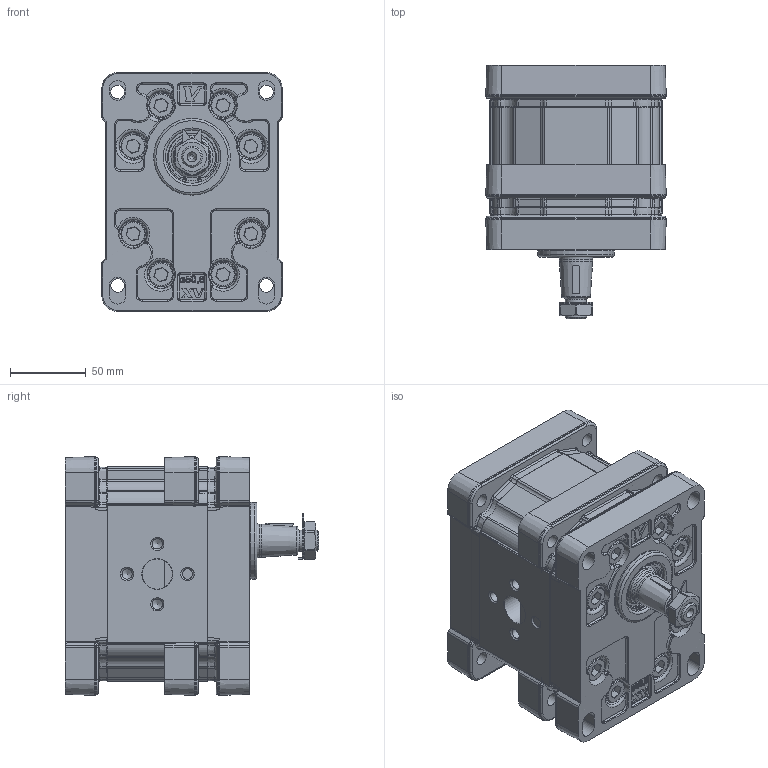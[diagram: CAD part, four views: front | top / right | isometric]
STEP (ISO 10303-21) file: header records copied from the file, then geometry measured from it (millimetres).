
FILE_DESCRIPTION( ( 'Unknown' ), '1' );
FILE_NAME( 'P:/montaggio_easy/output/STP/X3T6602AAAA.stp', 'Unknown', ( 'Unknown' ), ( 'Unknown' ), 'PSStep 14.0', 'Unknown', ' ' );
FILE_SCHEMA( ( 'AUTOMOTIVE_DESIGN { 1 0 10303 214 1 1 1 1 }' ) );
Length unit declared in the file: millimetre
Products named in the file (5): Assem1; X3T02; 3A; X3AAH66; XT301-A
Bounding box: 119.47 x 168.03 x 158.07 mm (x, y, z)
Surface area: 434372.9 mm2
Topology: 8 solids, 26 shells, 3762 faces, 9188 edges, 5650 vertices
Faces by surface type: plane 1302, cylinder 948, bspline 600, torus 386, cone 346, extrusion 100, sphere 80
Full cylindrical faces by diameter (mm): 2 x4, 6.8 x24, 9 x8, 10 x16, 14 x4, 15.8 x16, 16 x32, 17 x4, 20 x4, 20.5 x2, 22 x2, 24.98 x2, 25 x4, 25.968 x2, 28.16 x2, 31.293 x2, 32.742 x2, 34.956 x2, 35 x4, 35.2 x2, 37 x2, 46.8 x2, 50.8 x4
Entity records: 89037 total; most frequent: CARTESIAN_POINT 33871, ORIENTED_EDGE 8638, DIRECTION 7546, EDGE_CURVE 4319, AXIS2_PLACEMENT_3D 2828, VERTEX_POINT 2758, EDGE_LOOP 2178, FACE_OUTER_BOUND 2007
